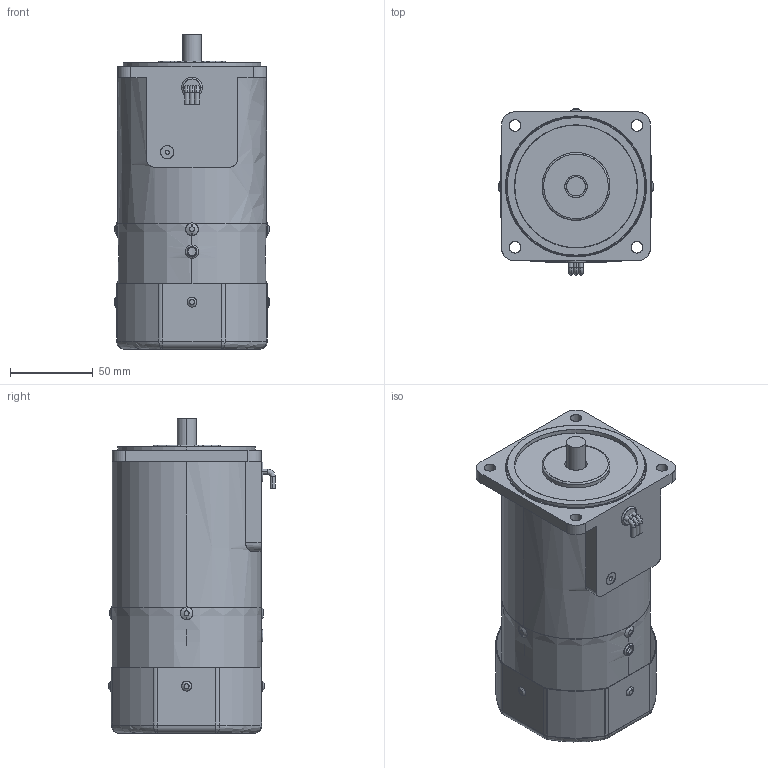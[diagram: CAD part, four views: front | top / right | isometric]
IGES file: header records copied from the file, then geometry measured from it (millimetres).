
Start section: SolidWorks IGES file using analytic representation for surfaces
Bounding box: 94 x 100.5 x 190 mm (x, y, z)
Surface area: 170514.7 mm2 (no closed solid volume)
Topology: 0 solids, 0 shells, 278 faces, 5986 edges, 5970 vertices
Faces by surface type: revolution 156, bspline 122
